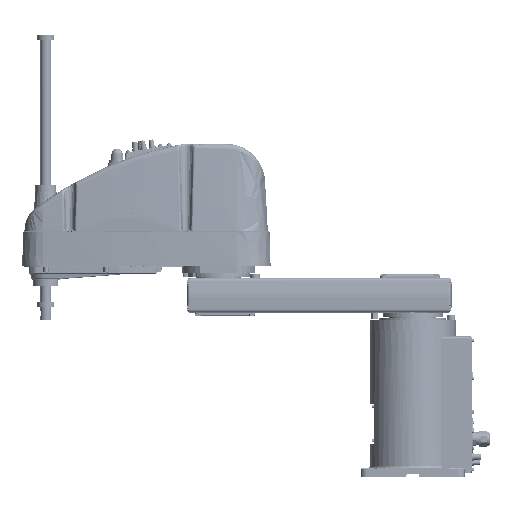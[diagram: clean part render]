
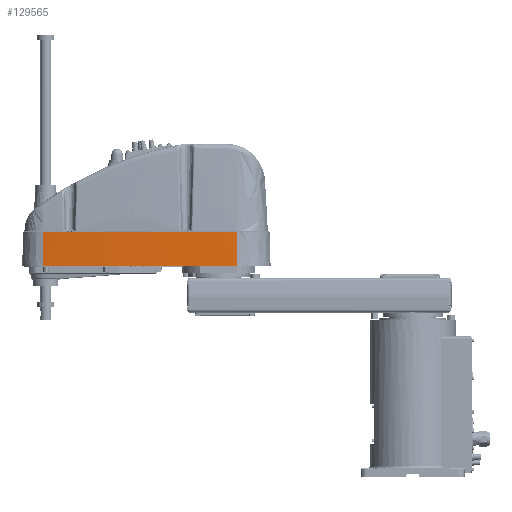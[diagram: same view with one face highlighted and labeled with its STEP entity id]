
A CAD part, top view. The second image highlights one B-rep face of the part: STEP entity #129565.
In plain terms, the highlighted conical face has half-angle 1.5 degrees and reference radius 3001 mm.
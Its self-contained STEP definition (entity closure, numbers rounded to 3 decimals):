
#83858=DIRECTION('',(-0.003,-1.,0.026));
#83859=VECTOR('',#83858,79.781);
#83860=CARTESIAN_POINT('',(-856.72,389.054,
53.03));
#83861=LINE('',#83860,#83859);
#83862=CARTESIAN_POINT('',(-479.569,389.054,
-2923.122));
#83863=DIRECTION('',(0.,-1.,0.));
#83864=DIRECTION('',(0.024,0.,1.));
#83865=AXIS2_PLACEMENT_3D('',#83862,#83863,#83864);
#83867=CARTESIAN_POINT('',(-407.001,389.054,
75.954));
#83868=CARTESIAN_POINT('',(-406.998,380.25,
76.185));
#83869=CARTESIAN_POINT('',(-406.992,362.603,
76.647));
#83870=CARTESIAN_POINT('',(-406.984,336.019,
77.343));
#83871=CARTESIAN_POINT('',(-406.978,318.219,
77.809));
#83872=CARTESIAN_POINT('',(-406.975,309.3,78.042));
#83874=CARTESIAN_POINT('',(-479.569,389.054,
-2923.122));
#83875=DIRECTION('',(0.,-1.,0.));
#83876=DIRECTION('',(-0.107,0.,0.994));
#83877=AXIS2_PLACEMENT_3D('',#83874,#83875,#83876);
#83879=CARTESIAN_POINT('',(-479.569,389.054,
-2923.122));
#83880=DIRECTION('',(0.,-1.,0.));
#83881=DIRECTION('',(-0.017,0.,1.));
#83882=AXIS2_PLACEMENT_3D('',#83879,#83880,#83881);
#83884=CARTESIAN_POINT('',(-519.504,389.083,
76.565));
#83885=CARTESIAN_POINT('',(-519.873,389.083,
76.56));
#83886=CARTESIAN_POINT('',(-520.587,389.108,
76.55));
#83887=CARTESIAN_POINT('',(-521.618,389.098,
76.536));
#83888=CARTESIAN_POINT('',(-522.609,389.101,
76.522));
#83889=CARTESIAN_POINT('',(-523.573,389.1,
76.508));
#83890=CARTESIAN_POINT('',(-524.521,389.1,
76.494));
#83891=CARTESIAN_POINT('',(-525.463,389.1,
76.48));
#83892=CARTESIAN_POINT('',(-526.411,389.1,
76.465));
#83893=CARTESIAN_POINT('',(-527.375,389.101,
76.45));
#83894=CARTESIAN_POINT('',(-528.369,389.098,
76.434));
#83895=CARTESIAN_POINT('',(-529.392,389.108,
76.417));
#83896=CARTESIAN_POINT('',(-530.133,389.082,
76.405));
#83897=CARTESIAN_POINT('',(-530.499,389.082,
76.399));
#83968=CARTESIAN_POINT('',(-530.499,389.082,
76.399));
#83970=CARTESIAN_POINT('',(-789.554,389.083,
60.773));
#84116=CARTESIAN_POINT('',(-789.554,389.083,
60.773));
#84117=CARTESIAN_POINT('',(-789.922,389.083,
60.734));
#84118=CARTESIAN_POINT('',(-790.649,389.108,
60.658));
#84119=CARTESIAN_POINT('',(-791.677,389.098,
60.551));
#84120=CARTESIAN_POINT('',(-792.671,389.101,
60.447));
#84121=CARTESIAN_POINT('',(-793.636,389.1,
60.346));
#84122=CARTESIAN_POINT('',(-794.585,389.1,
60.246));
#84123=CARTESIAN_POINT('',(-795.528,389.1,
60.146));
#84124=CARTESIAN_POINT('',(-796.477,389.1,
60.045));
#84125=CARTESIAN_POINT('',(-797.442,389.101,
59.942));
#84126=CARTESIAN_POINT('',(-798.434,389.098,59.837));
#84127=CARTESIAN_POINT('',(-799.464,389.108,
59.726));
#84128=CARTESIAN_POINT('',(-800.185,389.083,
59.649));
#84129=CARTESIAN_POINT('',(-800.553,389.083,
59.609));
#84201=CARTESIAN_POINT('',(-800.553,389.083,
59.609));
#84545=CARTESIAN_POINT('',(-519.504,389.083,
76.565));
#84782=CARTESIAN_POINT('',(-479.569,309.3,-2923.122));
#84783=DIRECTION('',(0.,-1.,0.));
#84784=DIRECTION('',(0.024,0.,1.));
#84785=AXIS2_PLACEMENT_3D('',#84782,#84783,#84784);
#119712=CARTESIAN_POINT('',(-406.975,309.3,78.042));
#119713=VERTEX_POINT('',#119712);
#119714=CARTESIAN_POINT('',(-856.983,309.3,55.102));
#119715=VERTEX_POINT('',#119714);
#120164=CARTESIAN_POINT('',(-856.72,389.054,
53.03));
#120166=VERTEX_POINT('',#120164);
#120173=CARTESIAN_POINT('',(-407.001,389.054,
75.954));
#120175=VERTEX_POINT('',#120173);
#120181=VERTEX_POINT('',#83968);
#120191=VERTEX_POINT('',#84545);
#120193=VERTEX_POINT('',#84201);
#120203=VERTEX_POINT('',#83970);
#129544=CARTESIAN_POINT('',(-479.569,349.201,
-2923.122));
#129545=DIRECTION('',(0.,-1.,0.));
#129546=DIRECTION('',(-1.,0.,0.));
#129547=AXIS2_PLACEMENT_3D('',#129544,#129545,#129546);
#129548=CONICAL_SURFACE('',#129547,3000.998,1.5);
#129550=ORIENTED_EDGE('',*,*,#129549,.F.);
#129552=ORIENTED_EDGE('',*,*,#129551,.F.);
#129553=ORIENTED_EDGE('',*,*,#128641,.T.);
#129555=ORIENTED_EDGE('',*,*,#129554,.T.);
#129556=ORIENTED_EDGE('',*,*,#129536,.F.);
#129558=ORIENTED_EDGE('',*,*,#129557,.F.);
#129560=ORIENTED_EDGE('',*,*,#129559,.F.);
#129562=ORIENTED_EDGE('',*,*,#129561,.F.);
#129563=EDGE_LOOP('',(#129550,#129552,#129553,#129555,#129556,#129558,#129560,
#129562));
#129564=FACE_OUTER_BOUND('',#129563,.F.);
#129565=ADVANCED_FACE('',(#129564),#129548,.T.);
#83866=CIRCLE('',#83865,2999.954);
#83873=B_SPLINE_CURVE_WITH_KNOTS('',3,(#83867,#83868,#83869,#83870,#83871,
#83872),.UNSPECIFIED.,.F.,.F.,(4,1,1,4),(0.,0.333,
0.667,1.),.UNSPECIFIED.);
#83878=CIRCLE('',#83877,2999.954);
#83883=CIRCLE('',#83882,2999.954);
#83898=B_SPLINE_CURVE_WITH_KNOTS('',3,(#83884,#83885,#83886,#83887,#83888,
#83889,#83890,#83891,#83892,#83893,#83894,#83895,#83896,#83897),.UNSPECIFIED.,
.F.,.F.,(4,1,1,1,1,1,1,1,1,1,1,4),(0.,0.091,0.182,
0.273,0.364,0.455,0.545,
0.636,0.727,0.818,0.909,1.),
.UNSPECIFIED.);
#84130=B_SPLINE_CURVE_WITH_KNOTS('',3,(#84116,#84117,#84118,#84119,#84120,
#84121,#84122,#84123,#84124,#84125,#84126,#84127,#84128,#84129),.UNSPECIFIED.,
.F.,.F.,(4,1,1,1,1,1,1,1,1,1,1,4),(0.,0.091,0.182,
0.273,0.364,0.455,0.545,
0.636,0.727,0.818,0.909,1.),
.UNSPECIFIED.);
#84786=CIRCLE('',#84785,3002.043);
#128641=EDGE_CURVE('',#120175,#119713,#83873,.T.);
#129536=EDGE_CURVE('',#120166,#119715,#83861,.T.);
#129549=EDGE_CURVE('',#120191,#120181,#83898,.T.);
#129551=EDGE_CURVE('',#120175,#120191,#83866,.T.);
#129554=EDGE_CURVE('',#119713,#119715,#84786,.T.);
#129557=EDGE_CURVE('',#120193,#120166,#83878,.T.);
#129559=EDGE_CURVE('',#120203,#120193,#84130,.T.);
#129561=EDGE_CURVE('',#120181,#120203,#83883,.T.);
